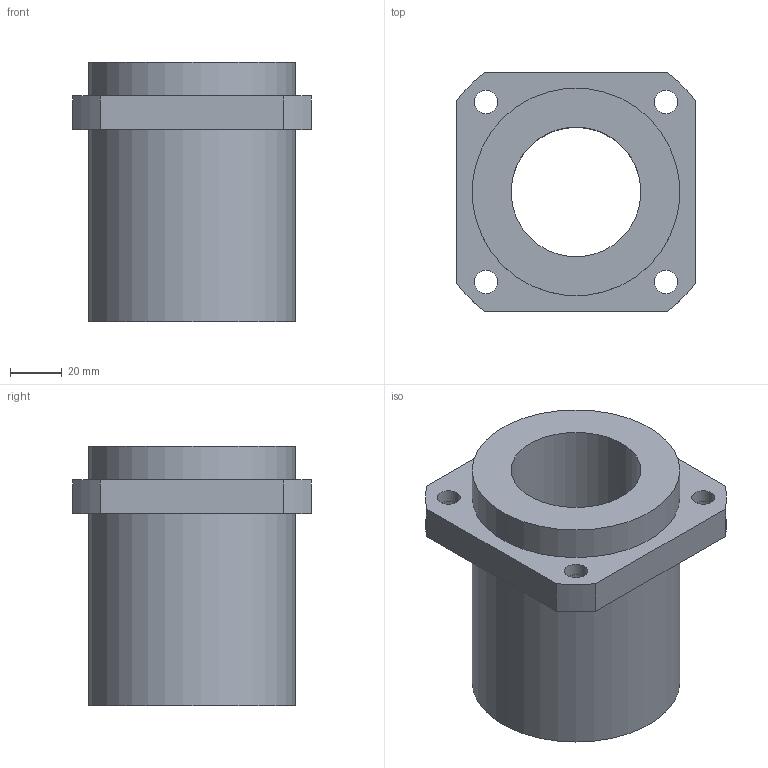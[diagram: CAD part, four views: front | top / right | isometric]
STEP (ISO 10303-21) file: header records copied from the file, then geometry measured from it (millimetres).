
FILE_DESCRIPTION(/* description */ (''),/* implementation_level */ '2;1');
FILE_NAME(/* name */ 'LMKP50UU',/* time_stamp */ '2019-07-10T08:52:12+02:00',/* author */ ('VĂ©gh MĂˇtĂ©'),/* organization */ ('Bearing Kft'),/* preprocessor_version */ 'ST-DEVELOPER v16.7',/* originating_system */ 'DEX',/* authorisation */ $);
FILE_SCHEMA (('AUTOMOTIVE_DESIGN {1 0 10303 214 3 1 1}'));
Length unit declared in the file: millimetre
Products named in the file (1): LMKP50UU
Bounding box: 92 x 92 x 100 mm (x, y, z)
Volume: 342051.3 mm3; surface area: 56105.4 mm2
Topology: 1 solids, 1 shells, 337 faces, 847 edges, 566 vertices
Faces by surface type: plane 259, bspline 61, cylinder 17
Full cylindrical faces by diameter (mm): 9 x4, 14 x4, 50 x1, 80 x2
Entity records: 12893 total; most frequent: CARTESIAN_POINT 5198, ORIENTED_EDGE 1658, DIRECTION 1295, EDGE_CURVE 829, LINE 673, VECTOR 673, VERTEX_POINT 562, EDGE_LOOP 415
